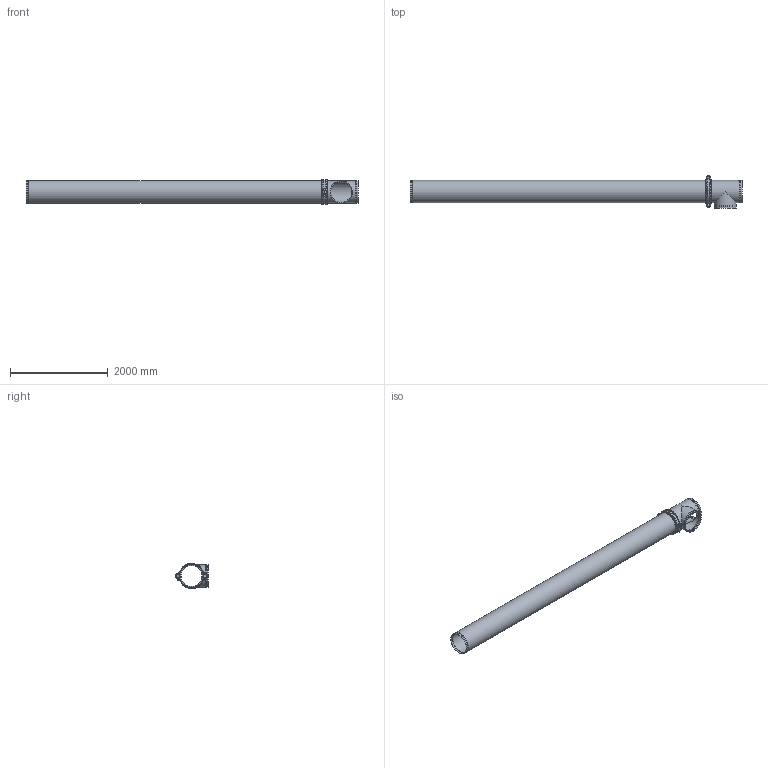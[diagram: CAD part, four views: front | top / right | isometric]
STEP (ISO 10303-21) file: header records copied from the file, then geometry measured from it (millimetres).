
FILE_DESCRIPTION(/* description */ ('VIC AGS LONG RUN FITTING No WR22 (AGS)','CAx-IF Rec.Pracs.---Representation and Presentation of Product Manufacturing Information (PMI)---4.0---2014-10-13'),/* implementation_level */ '2;1');
FILE_NAME(/* name */ 'C:\Users\kkamble\AppData\Roaming\Autodesk\ApplicationPlugins\Back Up\Victaulic_AGS_Long Run Fittings_No WR22 (AGS)\Victaulic_AGS_Long Run Fittings_No WR22 (AGS)_18 (450).stp',/* time_stamp */ '2020-10-07T02:49:33+05:00',/* author */ ('kkamble'),/* organization */ ('Victaulic'),/* preprocessor_version */ 'ST-DEVELOPER v17.2',/* originating_system */ 'Autodesk Inventor 2019',/* authorisation */ '');
FILE_SCHEMA (('AP242_MANAGED_MODEL_BASED_3D_ENGINEERING_MIM_LF { 1 0 10303 442 1 1 4 }'));
Length unit declared in the file: inch
Products named in the file (4): WR22-18.0; WR22-18.0_1; W77-18.0; W20-18.0
Assembly tree (3 placements, depth 2):
  WR22-18.0
    WR22-18.0_1
    W77-18.0
    W20-18.0
Bounding box: 6789.67 x 666.75 x 517.61 mm (x, y, z)
Volume: 97435339.7 mm3; surface area: 19919383.6 mm2
Topology: 3 solids, 5 shells, 340 faces, 1013 edges, 697 vertices
Faces by surface type: cylinder 161, plane 108, torus 56, cone 13, sphere 2
Full cylindrical faces by diameter (mm): 25.4 x4, 42.85 x2, 425.45 x3, 431.8 x1, 438.15 x6, 444.5 x5, 457.2 x10
Entity records: 14282 total; most frequent: CARTESIAN_POINT 4493, ORIENTED_EDGE 2026, DIRECTION 1956, EDGE_CURVE 1013, AXIS2_PLACEMENT_3D 788, VERTEX_POINT 697, CIRCLE 431, LINE 380
